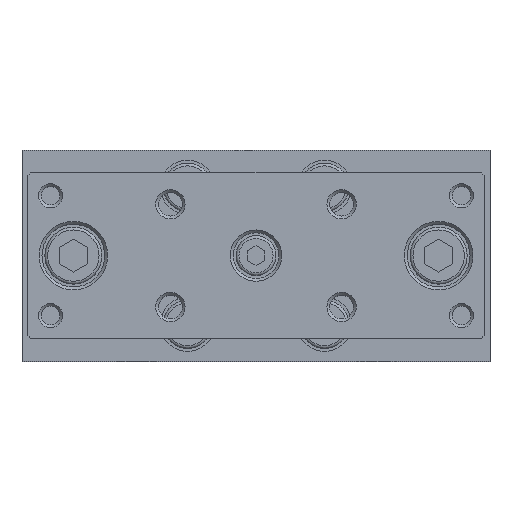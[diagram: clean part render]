
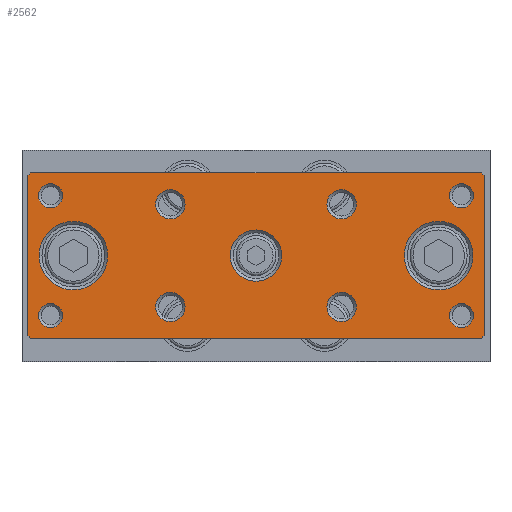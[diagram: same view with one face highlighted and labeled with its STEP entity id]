
A CAD part, top view. The second image highlights one B-rep face of the part: STEP entity #2562.
In plain terms, the highlighted planar face has unit normal (0, 0, 1).
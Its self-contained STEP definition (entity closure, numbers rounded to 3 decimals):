
#2366=CARTESIAN_POINT('',(-12.193,-7.317,154.5));
#2367=VERTEX_POINT('',#2366);
#2368=CARTESIAN_POINT('',(-14.76,-7.317,154.5));
#2369=DIRECTION('',(0.0,0.0,1.0));
#2370=DIRECTION('',(-1.0,0.0,0.0));
#2371=AXIS2_PLACEMENT_3D('',#2368,#2369,#2370);
#2372=CIRCLE('',#2371,2.567);
#2373=EDGE_CURVE('',#2367,#2367,#2372,.T.);
#2378=CARTESIAN_POINT('',(-39.76,1.683,154.5));
#2379=DIRECTION('',(0.0,0.0,1.0));
#2380=DIRECTION('',(1.0,0.0,0.0));
#2381=AXIS2_PLACEMENT_3D('',#2378,#2379,#2380);
#2382=PLANE('',#2381);
#2383=CARTESIAN_POINT('',(-39.76,15.683,154.5));
#2384=VERTEX_POINT('',#2383);
#2385=CARTESIAN_POINT('',(-39.26,16.183,154.5));
#2386=VERTEX_POINT('',#2385);
#2387=CARTESIAN_POINT('',(-39.76,15.683,154.5));
#2388=DIRECTION('',(0.707,0.707,0.0));
#2389=VECTOR('',#2388,0.707);
#2390=LINE('',#2387,#2389);
#2391=EDGE_CURVE('',#2384,#2386,#2390,.T.);
#2392=ORIENTED_EDGE('',*,*,#2391,.F.);
#2393=CARTESIAN_POINT('',(-39.76,-12.317,154.5));
#2394=VERTEX_POINT('',#2393);
#2395=CARTESIAN_POINT('',(-39.76,15.683,154.5));
#2396=DIRECTION('',(0.0,-1.0,0.0));
#2397=VECTOR('',#2396,28.);
#2398=LINE('',#2395,#2397);
#2399=EDGE_CURVE('',#2384,#2394,#2398,.T.);
#2400=ORIENTED_EDGE('',*,*,#2399,.T.);
#2401=CARTESIAN_POINT('',(-39.26,-12.817,154.5));
#2402=VERTEX_POINT('',#2401);
#2403=CARTESIAN_POINT('',(-39.26,-12.817,154.5));
#2404=DIRECTION('',(-0.707,0.707,0.0));
#2405=VECTOR('',#2404,0.707);
#2406=LINE('',#2403,#2405);
#2407=EDGE_CURVE('',#2402,#2394,#2406,.T.);
#2408=ORIENTED_EDGE('',*,*,#2407,.F.);
#2409=CARTESIAN_POINT('',(39.74,-12.817,154.5));
#2410=VERTEX_POINT('',#2409);
#2411=CARTESIAN_POINT('',(-39.26,-12.817,154.5));
#2412=DIRECTION('',(1.0,0.0,0.0));
#2413=VECTOR('',#2412,79.0);
#2414=LINE('',#2411,#2413);
#2415=EDGE_CURVE('',#2402,#2410,#2414,.T.);
#2416=ORIENTED_EDGE('',*,*,#2415,.T.);
#2417=CARTESIAN_POINT('',(40.24,-12.317,154.5));
#2418=VERTEX_POINT('',#2417);
#2419=CARTESIAN_POINT('',(40.24,-12.317,154.5));
#2420=DIRECTION('',(-0.707,-0.707,0.0));
#2421=VECTOR('',#2420,0.707);
#2422=LINE('',#2419,#2421);
#2423=EDGE_CURVE('',#2418,#2410,#2422,.T.);
#2424=ORIENTED_EDGE('',*,*,#2423,.F.);
#2425=CARTESIAN_POINT('',(40.24,15.683,154.5));
#2426=VERTEX_POINT('',#2425);
#2427=CARTESIAN_POINT('',(40.24,-12.317,154.5));
#2428=DIRECTION('',(0.0,1.0,0.0));
#2429=VECTOR('',#2428,28.);
#2430=LINE('',#2427,#2429);
#2431=EDGE_CURVE('',#2418,#2426,#2430,.T.);
#2432=ORIENTED_EDGE('',*,*,#2431,.T.);
#2433=CARTESIAN_POINT('',(39.74,16.183,154.5));
#2434=VERTEX_POINT('',#2433);
#2435=CARTESIAN_POINT('',(39.74,16.183,154.5));
#2436=DIRECTION('',(0.707,-0.707,0.0));
#2437=VECTOR('',#2436,0.707);
#2438=LINE('',#2435,#2437);
#2439=EDGE_CURVE('',#2434,#2426,#2438,.T.);
#2440=ORIENTED_EDGE('',*,*,#2439,.F.);
#2441=CARTESIAN_POINT('',(39.74,16.183,154.5));
#2442=DIRECTION('',(-1.0,0.0,0.0));
#2443=VECTOR('',#2442,79.0);
#2444=LINE('',#2441,#2443);
#2445=EDGE_CURVE('',#2434,#2386,#2444,.T.);
#2446=ORIENTED_EDGE('',*,*,#2445,.T.);
#2447=EDGE_LOOP('',(#2392,#2400,#2408,#2416,#2424,#2432,#2440,#2446));
#2448=FACE_OUTER_BOUND('',#2447,.T.);
#2449=CARTESIAN_POINT('',(17.807,10.683,154.5));
#2450=VERTEX_POINT('',#2449);
#2451=CARTESIAN_POINT('',(15.24,10.683,154.5));
#2452=DIRECTION('',(0.0,0.0,1.0));
#2453=DIRECTION('',(-1.0,0.0,0.0));
#2454=AXIS2_PLACEMENT_3D('',#2451,#2452,#2453);
#2455=CIRCLE('',#2454,2.567);
#2456=EDGE_CURVE('',#2450,#2450,#2455,.T.);
#2457=ORIENTED_EDGE('',*,*,#2456,.F.);
#2458=EDGE_LOOP('',(#2457));
#2459=FACE_BOUND('',#2458,.T.);
#2460=CARTESIAN_POINT('',(-12.193,10.683,154.5));
#2461=VERTEX_POINT('',#2460);
#2462=CARTESIAN_POINT('',(-14.76,10.683,154.5));
#2463=DIRECTION('',(0.0,0.0,1.0));
#2464=DIRECTION('',(-1.0,0.0,0.0));
#2465=AXIS2_PLACEMENT_3D('',#2462,#2463,#2464);
#2466=CIRCLE('',#2465,2.567);
#2467=EDGE_CURVE('',#2461,#2461,#2466,.T.);
#2468=ORIENTED_EDGE('',*,*,#2467,.F.);
#2469=EDGE_LOOP('',(#2468));
#2470=FACE_BOUND('',#2469,.T.);
#2471=CARTESIAN_POINT('',(4.74,1.683,154.5));
#2472=VERTEX_POINT('',#2471);
#2473=CARTESIAN_POINT('',(0.24,1.683,154.5));
#2474=DIRECTION('',(0.0,0.0,1.0));
#2475=DIRECTION('',(-1.0,0.0,0.0));
#2476=AXIS2_PLACEMENT_3D('',#2473,#2474,#2475);
#2477=CIRCLE('',#2476,4.5);
#2478=EDGE_CURVE('',#2472,#2472,#2477,.T.);
#2479=ORIENTED_EDGE('',*,*,#2478,.F.);
#2480=EDGE_LOOP('',(#2479));
#2481=FACE_BOUND('',#2480,.T.);
#2482=CARTESIAN_POINT('',(-25.76,1.683,154.5));
#2483=VERTEX_POINT('',#2482);
#2484=CARTESIAN_POINT('',(-31.76,1.683,154.5));
#2485=DIRECTION('',(0.0,0.0,1.0));
#2486=DIRECTION('',(-1.0,0.0,0.0));
#2487=AXIS2_PLACEMENT_3D('',#2484,#2485,#2486);
#2488=CIRCLE('',#2487,6.);
#2489=EDGE_CURVE('',#2483,#2483,#2488,.T.);
#2490=ORIENTED_EDGE('',*,*,#2489,.F.);
#2491=EDGE_LOOP('',(#2490));
#2492=FACE_BOUND('',#2491,.T.);
#2493=CARTESIAN_POINT('',(38.24,1.683,154.5));
#2494=VERTEX_POINT('',#2493);
#2495=CARTESIAN_POINT('',(32.24,1.683,154.5));
#2496=DIRECTION('',(0.0,0.0,1.0));
#2497=DIRECTION('',(-1.0,0.0,0.0));
#2498=AXIS2_PLACEMENT_3D('',#2495,#2496,#2497);
#2499=CIRCLE('',#2498,6.);
#2500=EDGE_CURVE('',#2494,#2494,#2499,.T.);
#2501=ORIENTED_EDGE('',*,*,#2500,.F.);
#2502=EDGE_LOOP('',(#2501));
#2503=FACE_BOUND('',#2502,.T.);
#2504=CARTESIAN_POINT('',(38.361,-8.817,154.5));
#2505=VERTEX_POINT('',#2504);
#2506=CARTESIAN_POINT('',(36.24,-8.817,154.5));
#2507=DIRECTION('',(0.0,0.0,1.0));
#2508=DIRECTION('',(-1.0,0.0,0.0));
#2509=AXIS2_PLACEMENT_3D('',#2506,#2507,#2508);
#2510=CIRCLE('',#2509,2.121);
#2511=EDGE_CURVE('',#2505,#2505,#2510,.T.);
#2512=ORIENTED_EDGE('',*,*,#2511,.F.);
#2513=EDGE_LOOP('',(#2512));
#2514=FACE_BOUND('',#2513,.T.);
#2515=CARTESIAN_POINT('',(38.361,12.183,154.5));
#2516=VERTEX_POINT('',#2515);
#2517=CARTESIAN_POINT('',(36.24,12.183,154.5));
#2518=DIRECTION('',(0.0,0.0,1.0));
#2519=DIRECTION('',(-1.0,0.0,0.0));
#2520=AXIS2_PLACEMENT_3D('',#2517,#2518,#2519);
#2521=CIRCLE('',#2520,2.121);
#2522=EDGE_CURVE('',#2516,#2516,#2521,.T.);
#2523=ORIENTED_EDGE('',*,*,#2522,.F.);
#2524=EDGE_LOOP('',(#2523));
#2525=FACE_BOUND('',#2524,.T.);
#2526=CARTESIAN_POINT('',(-33.639,-8.817,154.5));
#2527=VERTEX_POINT('',#2526);
#2528=CARTESIAN_POINT('',(-35.76,-8.817,154.5));
#2529=DIRECTION('',(0.0,0.0,1.0));
#2530=DIRECTION('',(-1.0,0.0,0.0));
#2531=AXIS2_PLACEMENT_3D('',#2528,#2529,#2530);
#2532=CIRCLE('',#2531,2.121);
#2533=EDGE_CURVE('',#2527,#2527,#2532,.T.);
#2534=ORIENTED_EDGE('',*,*,#2533,.F.);
#2535=EDGE_LOOP('',(#2534));
#2536=FACE_BOUND('',#2535,.T.);
#2537=CARTESIAN_POINT('',(-33.639,12.183,154.5));
#2538=VERTEX_POINT('',#2537);
#2539=CARTESIAN_POINT('',(-35.76,12.183,154.5));
#2540=DIRECTION('',(0.0,0.0,1.0));
#2541=DIRECTION('',(-1.0,0.0,0.0));
#2542=AXIS2_PLACEMENT_3D('',#2539,#2540,#2541);
#2543=CIRCLE('',#2542,2.121);
#2544=EDGE_CURVE('',#2538,#2538,#2543,.T.);
#2545=ORIENTED_EDGE('',*,*,#2544,.F.);
#2546=EDGE_LOOP('',(#2545));
#2547=FACE_BOUND('',#2546,.T.);
#2548=CARTESIAN_POINT('',(17.807,-7.317,154.5));
#2549=VERTEX_POINT('',#2548);
#2550=CARTESIAN_POINT('',(15.24,-7.317,154.5));
#2551=DIRECTION('',(0.0,0.0,1.0));
#2552=DIRECTION('',(-1.0,0.0,0.0));
#2553=AXIS2_PLACEMENT_3D('',#2550,#2551,#2552);
#2554=CIRCLE('',#2553,2.567);
#2555=EDGE_CURVE('',#2549,#2549,#2554,.T.);
#2556=ORIENTED_EDGE('',*,*,#2555,.F.);
#2557=EDGE_LOOP('',(#2556));
#2558=FACE_BOUND('',#2557,.T.);
#2559=ORIENTED_EDGE('',*,*,#2373,.F.);
#2560=EDGE_LOOP('',(#2559));
#2561=FACE_BOUND('',#2560,.T.);
#2562=ADVANCED_FACE('',(#2448,#2459,#2470,#2481,#2492,#2503,#2514,#2525,#2536,#2547,#2558,#2561),#2382,.T.);
